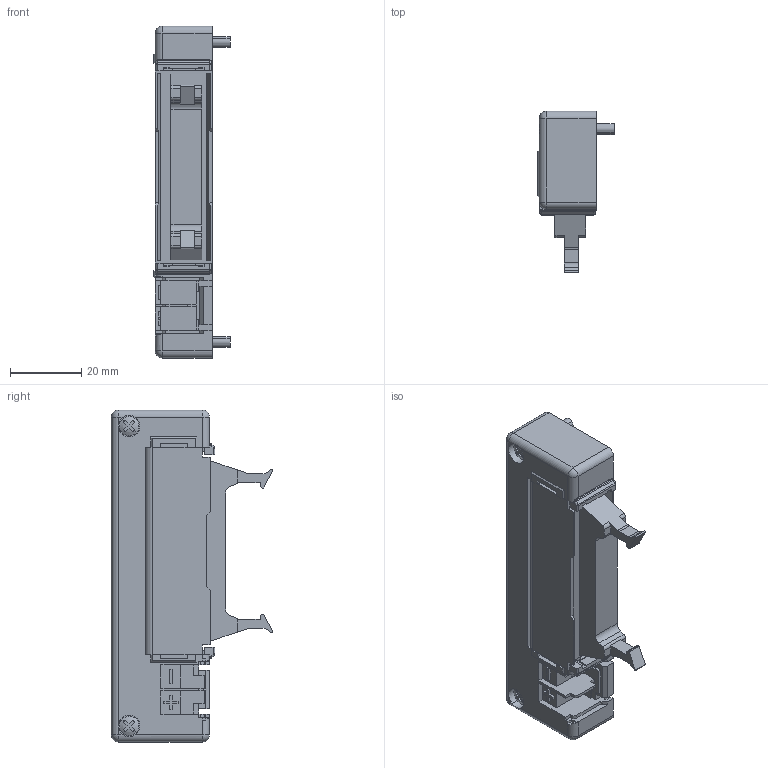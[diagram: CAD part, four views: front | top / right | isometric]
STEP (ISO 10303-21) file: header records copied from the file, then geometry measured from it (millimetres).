
FILE_DESCRIPTION( (''), '2;1');
FILE_NAME ('CVICAD32.25716.FZX-F260_10711.stp','2020-09-09T09:20:25',(''),(''),'spGate 12.6.6','','');
FILE_SCHEMA (('AUTOMOTIVE_DESIGN'));
Length unit declared in the file: millimetre
Products named in the file (3): Assembly; CVICAD32-prt0; CVICAD32-prt1
Assembly tree (2 placements, depth 2):
  Assembly
    CVICAD32-prt0
    CVICAD32-prt1
Bounding box: 21.4 x 45.2 x 93 mm (x, y, z)
Volume: 35225.6 mm3; surface area: 15058.1 mm2
Topology: 2 solids, 2 shells, 415 faces, 1206 edges, 778 vertices
Faces by surface type: plane 306, cylinder 84, sphere 20, bspline 5
Entity records: 22900 total; most frequent: CARTESIAN_POINT 2603, ORIENTED_EDGE 2380, DIRECTION 2210, COLOUR_RGB 1607, PRESENTATION_STYLE_ASSIGNMENT 1607, STYLED_ITEM 1607, EDGE_CURVE 1190, DRAUGHTING_PRE_DEFINED_CURVE_FONT 1190
